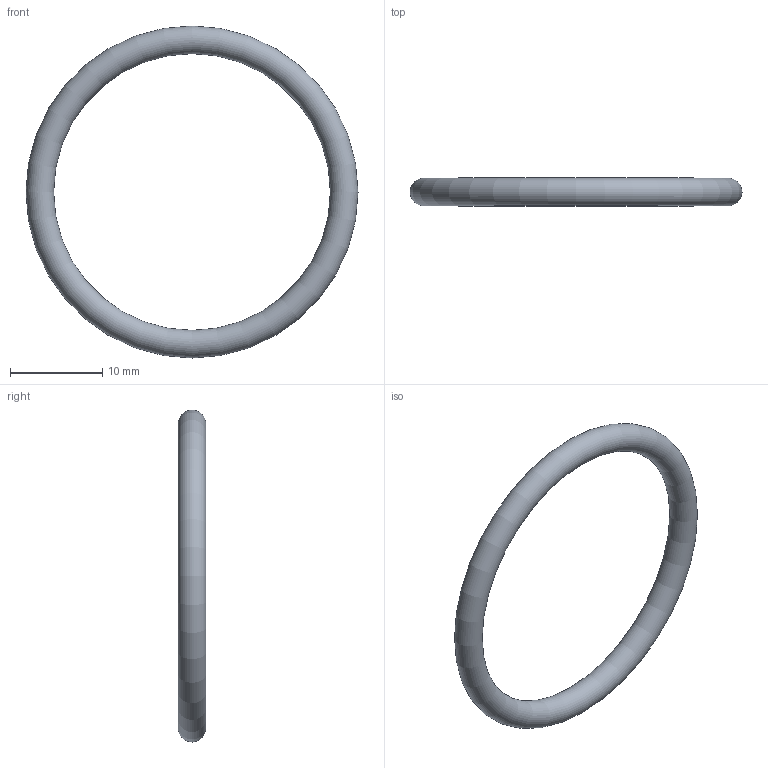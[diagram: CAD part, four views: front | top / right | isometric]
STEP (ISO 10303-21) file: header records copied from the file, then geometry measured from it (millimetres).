
FILE_DESCRIPTION( ( 'STEP AP203' ), '1' );
FILE_NAME( 'C:/Temp/Ganter_Step_05_03_2020/data/3_5/or638/O-Ring OR638-30.00-3.00-70.stp', '2020-03-12T13:44:30', ( 'License CC BY-ND 4.0' ), ( 'CADENAS' ), ' ', 'PARTsolutions', ' ' );
FILE_SCHEMA( ( 'CONFIG_CONTROL_DESIGN' ) );
Length unit declared in the file: millimetre
Products named in the file (1): _O-Ring OR638-30.00-3.00-70
Bounding box: 36 x 3 x 36 mm (x, y, z)
Volume: 732.8 mm3; surface area: 977.1 mm2
Topology: 1 solids, 1 shells, 1 faces, 2 edges, 1 vertices
Faces by surface type: torus 1
Entity records: 62 total; most frequent: CC_DESIGN_PERSON_AND_ORGANIZATION_ASSIGNMENT 5, PERSON_AND_ORGANIZATION_ROLE 4, DIRECTION 4, CARTESIAN_POINT 3, DATE_TIME_ROLE 2, CC_DESIGN_DATE_AND_TIME_ASSIGNMENT 2, AXIS2_PLACEMENT_3D 2, DIMENSIONAL_EXPONENTS 2
